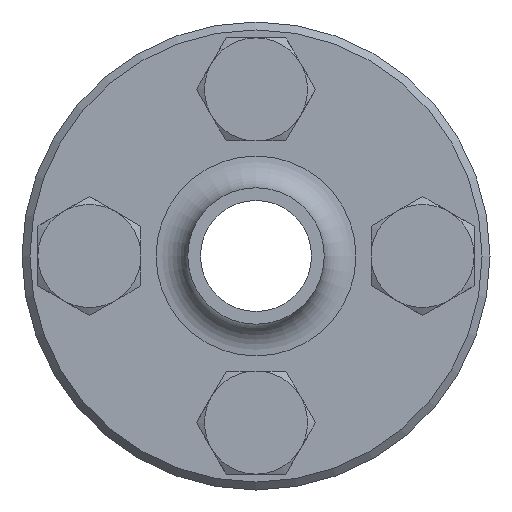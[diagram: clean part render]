
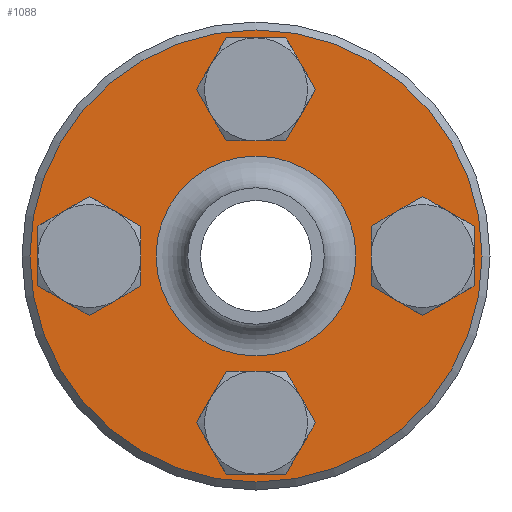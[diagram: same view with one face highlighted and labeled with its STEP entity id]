
A CAD part, front view. The second image highlights one B-rep face of the part: STEP entity #1088.
In plain terms, the highlighted planar face has unit normal (0, -1, 0).
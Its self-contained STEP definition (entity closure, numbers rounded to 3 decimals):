
#152=PLANE('',#1195);
#211=FACE_BOUND('',#381,.T.);
#212=FACE_BOUND('',#382,.T.);
#213=FACE_BOUND('',#383,.T.);
#214=FACE_BOUND('',#384,.T.);
#215=FACE_BOUND('',#385,.T.);
#280=FACE_OUTER_BOUND('',#380,.T.);
#380=EDGE_LOOP('',(#812));
#381=EDGE_LOOP('',(#813));
#382=EDGE_LOOP('',(#814));
#383=EDGE_LOOP('',(#815));
#384=EDGE_LOOP('',(#816));
#385=EDGE_LOOP('',(#817));
#491=CIRCLE('',#1155,4.5);
#493=CIRCLE('',#1158,4.5);
#495=CIRCLE('',#1161,4.5);
#497=CIRCLE('',#1164,4.5);
#513=CIRCLE('',#1194,28.5);
#514=CIRCLE('',#1196,12.6);
#563=VERTEX_POINT('',#1674);
#565=VERTEX_POINT('',#1679);
#567=VERTEX_POINT('',#1684);
#569=VERTEX_POINT('',#1689);
#585=VERTEX_POINT('',#1735);
#586=VERTEX_POINT('',#1738);
#658=EDGE_CURVE('',#563,#563,#491,.T.);
#660=EDGE_CURVE('',#565,#565,#493,.T.);
#662=EDGE_CURVE('',#567,#567,#495,.T.);
#664=EDGE_CURVE('',#569,#569,#497,.T.);
#680=EDGE_CURVE('',#585,#585,#513,.T.);
#681=EDGE_CURVE('',#586,#586,#514,.T.);
#812=ORIENTED_EDGE('',*,*,#680,.T.);
#813=ORIENTED_EDGE('',*,*,#658,.T.);
#814=ORIENTED_EDGE('',*,*,#660,.T.);
#815=ORIENTED_EDGE('',*,*,#662,.T.);
#816=ORIENTED_EDGE('',*,*,#664,.T.);
#817=ORIENTED_EDGE('',*,*,#681,.F.);
#1088=ADVANCED_FACE('',(#280,#211,#212,#213,#214,#215),#152,.T.);
#1155=AXIS2_PLACEMENT_3D('',#1675,#1324,#1325);
#1158=AXIS2_PLACEMENT_3D('',#1680,#1330,#1331);
#1161=AXIS2_PLACEMENT_3D('',#1685,#1336,#1337);
#1164=AXIS2_PLACEMENT_3D('',#1690,#1342,#1343);
#1194=AXIS2_PLACEMENT_3D('',#1736,#1402,#1403);
#1195=AXIS2_PLACEMENT_3D('',#1737,#1404,#1405);
#1196=AXIS2_PLACEMENT_3D('',#1739,#1406,#1407);
#1324=DIRECTION('center_axis',(0.,1.,0.));
#1325=DIRECTION('ref_axis',(0.,0.,1.));
#1330=DIRECTION('center_axis',(0.,1.,0.));
#1331=DIRECTION('ref_axis',(1.,0.,0.));
#1336=DIRECTION('center_axis',(0.,1.,0.));
#1337=DIRECTION('ref_axis',(0.,0.,-1.));
#1342=DIRECTION('center_axis',(0.,1.,0.));
#1343=DIRECTION('ref_axis',(-1.,0.,0.));
#1402=DIRECTION('center_axis',(0.,-1.,0.));
#1403=DIRECTION('ref_axis',(1.,0.,0.));
#1404=DIRECTION('center_axis',(0.,-1.,0.));
#1405=DIRECTION('ref_axis',(0.,0.,-1.));
#1406=DIRECTION('center_axis',(0.,-1.,0.));
#1407=DIRECTION('ref_axis',(1.,0.,0.));
#1674=CARTESIAN_POINT('',(-21.,30.,-4.5));
#1675=CARTESIAN_POINT('Origin',(-21.,30.,0.));
#1679=CARTESIAN_POINT('',(-4.5,30.,21.));
#1680=CARTESIAN_POINT('Origin',(0.,30.,21.));
#1684=CARTESIAN_POINT('',(21.,30.,4.5));
#1685=CARTESIAN_POINT('Origin',(21.,30.,0.));
#1689=CARTESIAN_POINT('',(4.5,30.,-21.));
#1690=CARTESIAN_POINT('Origin',(0.,30.,-21.));
#1735=CARTESIAN_POINT('',(28.5,30.,0.));
#1736=CARTESIAN_POINT('Origin',(0.,30.,0.));
#1737=CARTESIAN_POINT('Origin',(20.55,30.,0.));
#1738=CARTESIAN_POINT('',(12.6,30.,0.));
#1739=CARTESIAN_POINT('Origin',(0.,30.,0.));
